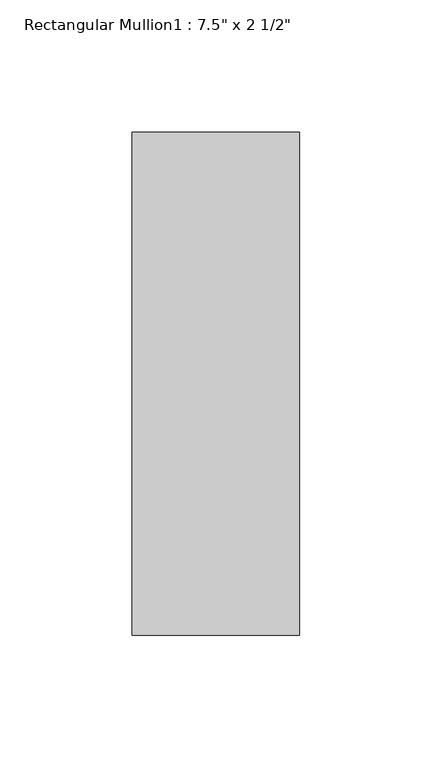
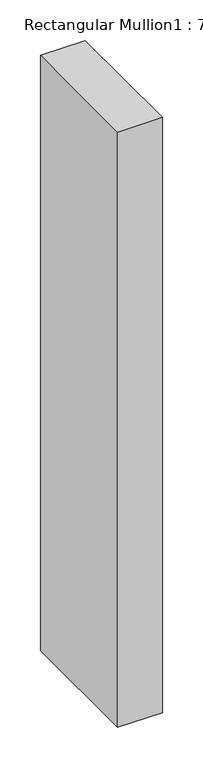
"""IFC4 building model written with IfcOpenShell, lengths in millimetres: member geometry."""

from ifc_helpers import new_model, si_unit, frame, origin, place, context, project, spatial, polyline, outline, extrude, source, transform, mapped, element, save


def member_23bb463a(model_context):
    return source(origin(), model_context, "Body", "SweptSolid", [
        extrude(outline(polyline([(-63.5, -165.1), (-63.5, 25.4), (0.0, 25.4), (0.0, -165.1), (-63.5, -165.1)])), frame((0.0, 0.0, -895.35), z_axis=(0.0, 0.0, 1.0), x_axis=(1.0, 0.0, 0.0)), (0.0, 0.0, 1.0), 895.35),
    ])


if __name__ == "__main__":
    model = new_model("IFC4")
    model_context = context("Model", 3, world=origin())
    ifc_project = project(units=[si_unit("LENGTHUNIT", "METRE", prefix="MILLI")], contexts=[model_context])
    site = spatial("IfcSite", under=ifc_project)
    building = spatial("IfcBuilding", under=site)
    placement = place(None, origin())
    member_shape = member_23bb463a(model_context)
    element("IfcMember", 1, ObjectType="Rectangular Mullion1 : 7.5\" x 2 1/2\"", at=placement, inside=building, context=model_context, shape_type="MappedRepresentation", body=[
        mapped(member_shape, transform((0.0, 0.0, 0.0), x_axis=(1.0, 0.0, 0.0), y_axis=(0.0, 1.0, 0.0), z_axis=(0.0, 0.0, 1.0))),
    ])
    save(model, "model.ifc")
